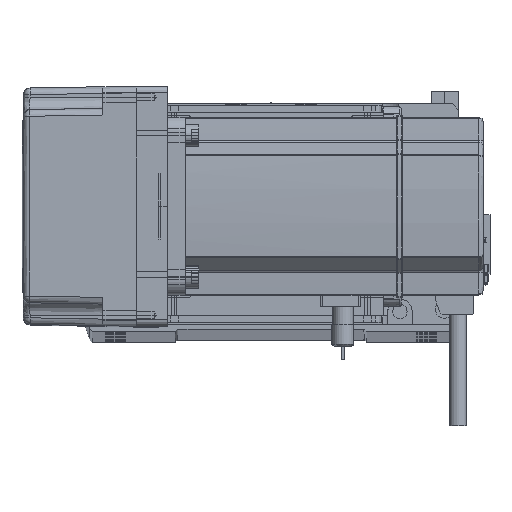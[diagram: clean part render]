
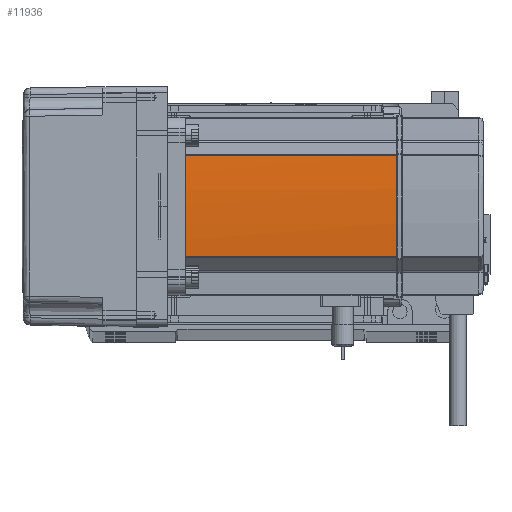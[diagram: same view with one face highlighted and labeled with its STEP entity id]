
A CAD part, top view. The second image highlights one B-rep face of the part: STEP entity #11936.
In plain terms, the highlighted cylindrical face has radius 270 mm (diameter 540 mm), a partial arc.
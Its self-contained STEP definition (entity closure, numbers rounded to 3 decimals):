
#2639 = CARTESIAN_POINT ( 'NONE',  ( -230., 0., 58. ) ) ;
#4721 = VERTEX_POINT ( 'NONE', #41343 ) ;
#5428 = CIRCLE ( 'NONE', #54936, 270. ) ;
#6897 = EDGE_LOOP ( 'NONE', ( #25577, #24272, #22101, #48250, #49233, #55698 ) ) ;
#10849 = CARTESIAN_POINT ( 'NONE',  ( 40., 0.127, 134. ) ) ;
#10966 = CIRCLE ( 'NONE', #12110, 270. ) ;
#11936 = ADVANCED_FACE ( 'NONE', ( #44752 ), #57841, .T. ) ;
#12110 = AXIS2_PLACEMENT_3D ( 'NONE', #44889, #24896, #49954 ) ;
#12678 = DIRECTION ( 'NONE',  ( -1., 0., 0. ) ) ;
#13069 = VERTEX_POINT ( 'NONE', #16428 ) ;
#16428 = CARTESIAN_POINT ( 'NONE',  ( 39.042, -22.724, 39. ) ) ;
#18141 = CARTESIAN_POINT ( 'NONE',  ( 39.042, 22.724, 134. ) ) ;
#19326 = CARTESIAN_POINT ( 'NONE',  ( 40., 0.127, 134. ) ) ;
#20706 = CARTESIAN_POINT ( 'NONE',  ( 40., -0.127, 134. ) ) ;
#20804 = VECTOR ( 'NONE', #58377, 1000. ) ;
#21557 = VERTEX_POINT ( 'NONE', #37772 ) ;
#22101 = ORIENTED_EDGE ( 'NONE', *, *, #48174, .T. ) ;
#23048 = EDGE_CURVE ( 'NONE', #55099, #46844, #5428, .T. ) ;
#24272 = ORIENTED_EDGE ( 'NONE', *, *, #39578, .F. ) ;
#24896 = DIRECTION ( 'NONE',  ( 0., 0., -1. ) ) ;
#25188 = DIRECTION ( 'NONE',  ( 0., 0., -1. ) ) ;
#25577 = ORIENTED_EDGE ( 'NONE', *, *, #28091, .T. ) ;
#27888 = LINE ( 'NONE', #28332, #20804 ) ;
#28091 = EDGE_CURVE ( 'NONE', #21557, #13069, #29366, .T. ) ;
#28332 = CARTESIAN_POINT ( 'NONE',  ( 39.042, 22.724, 58. ) ) ;
#29366 = LINE ( 'NONE', #61986, #52912 ) ;
#30834 = CARTESIAN_POINT ( 'NONE',  ( 40., 0.042, 134. ) ) ;
#31932 = DIRECTION ( 'NONE',  ( 0., 0., -1. ) ) ;
#33311 = EDGE_CURVE ( 'NONE', #53529, #46844, #36484, .T. ) ;
#36484 = B_SPLINE_CURVE_WITH_KNOTS ( 'NONE', 3,
 ( #20706, #60914, #30834, #10849 ),
 .UNSPECIFIED., .F., .F.,
 ( 4, 4 ),
 ( 0., 1. ),
 .UNSPECIFIED. ) ;
#37772 = CARTESIAN_POINT ( 'NONE',  ( 39.042, -22.724, 134. ) ) ;
#39578 = EDGE_CURVE ( 'NONE', #4721, #13069, #43274, .T. ) ;
#40131 = EDGE_CURVE ( 'NONE', #53529, #21557, #10966, .T. ) ;
#41343 = CARTESIAN_POINT ( 'NONE',  ( 39.042, 22.724, 39. ) ) ;
#42626 = AXIS2_PLACEMENT_3D ( 'NONE', #2639, #62589, #52941 ) ;
#43274 = CIRCLE ( 'NONE', #59239, 270. ) ;
#44752 = FACE_OUTER_BOUND ( 'NONE', #6897, .T. ) ;
#44889 = CARTESIAN_POINT ( 'NONE',  ( -230., 0., 134. ) ) ;
#45802 = CARTESIAN_POINT ( 'NONE',  ( -230., 0., 134. ) ) ;
#46844 = VERTEX_POINT ( 'NONE', #19326 ) ;
#46936 = CARTESIAN_POINT ( 'NONE',  ( -230., 0., 39. ) ) ;
#48174 = EDGE_CURVE ( 'NONE', #4721, #55099, #27888, .T. ) ;
#48250 = ORIENTED_EDGE ( 'NONE', *, *, #23048, .T. ) ;
#49233 = ORIENTED_EDGE ( 'NONE', *, *, #33311, .F. ) ;
#49954 = DIRECTION ( 'NONE',  ( -1., 0., 0. ) ) ;
#50001 = CARTESIAN_POINT ( 'NONE',  ( 40., -0.127, 134. ) ) ;
#50457 = DIRECTION ( 'NONE',  ( -1., 0., 0. ) ) ;
#52912 = VECTOR ( 'NONE', #31932, 1000. ) ;
#52941 = DIRECTION ( 'NONE',  ( -1., 0., 0. ) ) ;
#53529 = VERTEX_POINT ( 'NONE', #50001 ) ;
#54936 = AXIS2_PLACEMENT_3D ( 'NONE', #45802, #25188, #50457 ) ;
#55099 = VERTEX_POINT ( 'NONE', #18141 ) ;
#55698 = ORIENTED_EDGE ( 'NONE', *, *, #40131, .T. ) ;
#57841 = CYLINDRICAL_SURFACE ( 'NONE', #42626, 270. ) ;
#58377 = DIRECTION ( 'NONE',  ( 0., 0., 1. ) ) ;
#59239 = AXIS2_PLACEMENT_3D ( 'NONE', #46936, #62289, #12678 ) ;
#60914 = CARTESIAN_POINT ( 'NONE',  ( 40., -0.042, 134. ) ) ;
#61986 = CARTESIAN_POINT ( 'NONE',  ( 39.042, -22.724, 58. ) ) ;
#62289 = DIRECTION ( 'NONE',  ( 0., 0., -1. ) ) ;
#62589 = DIRECTION ( 'NONE',  ( 0., 0., -1. ) ) ;
